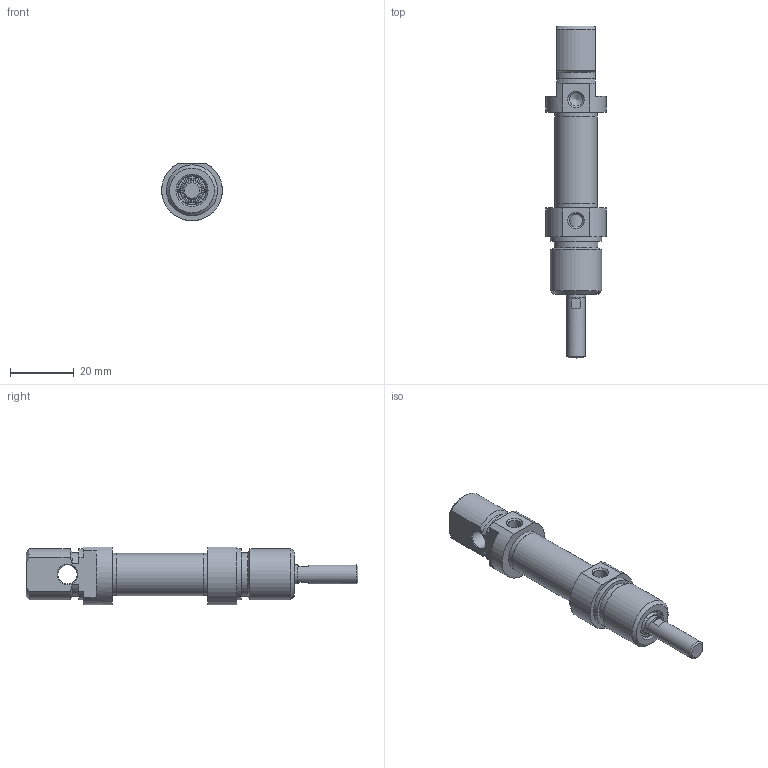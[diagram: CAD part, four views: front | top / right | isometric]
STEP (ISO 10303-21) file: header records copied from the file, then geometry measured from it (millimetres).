
FILE_DESCRIPTION((''),'2;1');
FILE_NAME('T:\Archivio Inventor\- 00 NUOVI STP PER SITO CON STELO CHE SI MUOVE\SERIE O\ODM\ODM012.---.GS.M\ODM012.000.GS.M.stp','2014-02-25T15:22:15',('carlo.corazza'),(''),'Autodesk Inventor 2012','Autodesk Inventor 2012','');
FILE_SCHEMA(('AUTOMOTIVE_DESIGN { 1 0 10303 214 1 1 1 1 }'));
Length unit declared in the file: millimetre
Products named in the file (5): ODM012..GS.M; CORPO-000; STELO-000; TA; TP
Assembly tree (4 placements, depth 2):
  ODM012..GS.M
    CORPO-000
    STELO-000
    TA
    TP
Bounding box: 18.95 x 104 x 18 mm (x, y, z)
Volume: 13120.5 mm3; surface area: 8480.5 mm2
Topology: 4 solids, 4 shells, 98 faces, 200 edges, 127 vertices
Faces by surface type: plane 38, cylinder 28, cone 24, torus 8
Full cylindrical faces by diameter (mm): 4 x1, 4.134 x2, 5.9 x1, 6 x2, 6.5 x1, 7.1 x1, 9 x1, 9.1 x1, 11.1 x1, 11.2 x1, 12 x1, 13.2 x2, 13.27 x1, 13.7 x1, 16 x2
Entity records: 2527 total; most frequent: DIRECTION 440, CARTESIAN_POINT 418, ORIENTED_EDGE 288, AXIS2_PLACEMENT_3D 198, EDGE_LOOP 166, EDGE_CURVE 144, VERTEX_POINT 118, FACE_OUTER_BOUND 98
